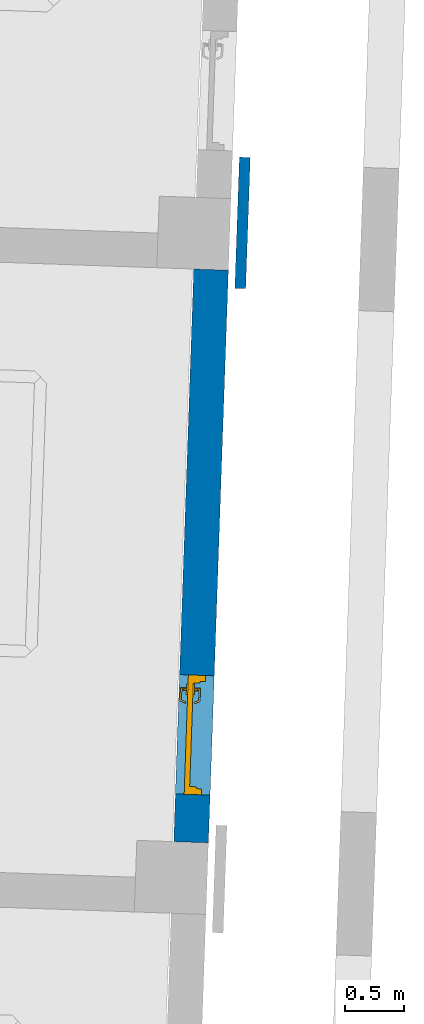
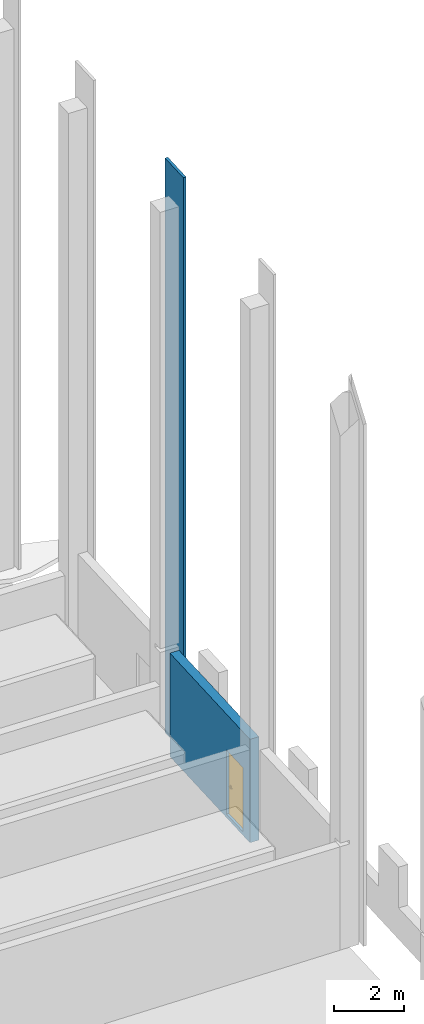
# One storey, part 35 of 44: 2 walls, 1 door, 1 opening.
"""IFC2X3 building model written with IfcOpenShell, lengths in feet."""

from ifc_helpers import new_model, entity, si_unit, converted_unit, derived_unit, direction, frame, frame_2d, origin, place, context, subcontext, project, spatial, rectangle, extrude, faceted_brep, source, transform, mapped, material, material_list, layer, layer_set, layer_usage, type_object, type_shapes, element, fill, save


model = new_model("IFC2X3")

# Units and contexts
model_context = context("Model", 3, precision=0.0001, world=origin(), true_north=direction((0.999390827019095, 0.0348994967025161)))
body_context = subcontext(model_context, "Body", "Model", "MODEL_VIEW")
ifc_project = project(units=[converted_unit("LENGTHUNIT", "FOOT", entity("IfcRatioMeasure", 0.3048), si_unit("LENGTHUNIT", "METRE"), dimensions=[1, 0, 0, 0, 0, 0, 0]), converted_unit("AREAUNIT", "SQUARE FOOT", entity("IfcRatioMeasure", 0.09290304), si_unit("AREAUNIT", "SQUARE_METRE"), dimensions=[2, 0, 0, 0, 0, 0, 0]), converted_unit("VOLUMEUNIT", "CUBIC FOOT", entity("IfcRatioMeasure", 0.028316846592), si_unit("VOLUMEUNIT", "CUBIC_METRE"), dimensions=[3, 0, 0, 0, 0, 0, 0]), converted_unit("PLANEANGLEUNIT", "DEGREE", entity("IfcRatioMeasure", 0.0174532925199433), si_unit("PLANEANGLEUNIT", "RADIAN"), dimensions=[0, 0, 0, 0, 0, 0, 0]), si_unit("MASSUNIT", "GRAM", prefix="KILO"), si_unit("TIMEUNIT", "SECOND"), si_unit("FREQUENCYUNIT", "HERTZ"), si_unit("THERMODYNAMICTEMPERATUREUNIT", "DEGREE_CELSIUS"), derived_unit("THERMALTRANSMITTANCEUNIT", [(si_unit("MASSUNIT", "GRAM", prefix="KILO"), 1), (si_unit("THERMODYNAMICTEMPERATUREUNIT", "KELVIN"), -1), (si_unit("TIMEUNIT", "SECOND"), -3)]), derived_unit("VOLUMETRICFLOWRATEUNIT", [(si_unit("LENGTHUNIT", "METRE"), 3), (si_unit("TIMEUNIT", "SECOND"), -1)]), si_unit("ELECTRICCURRENTUNIT", "AMPERE"), si_unit("ELECTRICVOLTAGEUNIT", "VOLT"), si_unit("POWERUNIT", "WATT"), si_unit("FORCEUNIT", "NEWTON"), si_unit("ILLUMINANCEUNIT", "LUX"), si_unit("LUMINOUSFLUXUNIT", "LUMEN"), si_unit("LUMINOUSINTENSITYUNIT", "CANDELA"), derived_unit("USERDEFINED", [(si_unit("MASSUNIT", "GRAM", prefix="KILO"), -1), (si_unit("LENGTHUNIT", "METRE"), -2), (si_unit("TIMEUNIT", "SECOND"), 3), (si_unit("LUMINOUSFLUXUNIT", "LUMEN"), 1)]), derived_unit("LINEARVELOCITYUNIT", [(si_unit("LENGTHUNIT", "METRE"), 1), (si_unit("TIMEUNIT", "SECOND"), -1)]), si_unit("PRESSUREUNIT", "PASCAL"), derived_unit("USERDEFINED", [(si_unit("LENGTHUNIT", "METRE"), -2), (si_unit("MASSUNIT", "GRAM", prefix="KILO"), 1), (si_unit("TIMEUNIT", "SECOND"), -2)])], contexts=[model_context])

# Site, building, storey
site_placement = place(None, frame((892.518771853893, 322.38689265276, 0.00393700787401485), z_axis=(0.0, 0.0, 1.0), x_axis=(0.0348994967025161, 0.999390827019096, 0.0)))
site = spatial("IfcSite", under=ifc_project, at=site_placement, Name="Default", CompositionType="ELEMENT")
building_placement = place(site_placement, origin())
building = spatial("IfcBuilding", under=site, at=building_placement, CompositionType="ELEMENT")
storey_placement = place(building_placement, frame((0.0, 0.0, 544.75)))
storey = spatial("IfcBuildingStorey", under=building, at=storey_placement, Name="Exist Garage - Ground Level", CompositionType="ELEMENT", Elevation=544.75)

# Wall
ifc_material_1 = material(Name="Masonry - Brick")
ifc_layer_1 = layer(ifc_material_1, 0.302083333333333)
ifc_layer_set_1 = layer_set([ifc_layer_1], Name="Basic Wall:(Existing) Exterior - Brick Veneer 3 5/8\"")
ifc_layer_usage_1 = layer_usage(ifc_layer_set_1, "AXIS2", "POSITIVE", -0.151041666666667)
wall_type_1 = type_object("IfcWallType", Name="Basic Wall:(Existing) Exterior - Brick Veneer 3 5/8\"", PredefinedType="STANDARD", material=ifc_layer_set_1)
wall_1_placement = place(storey_placement, frame((38.4272542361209, 235.41499514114, 0.0)))
element("IfcWallStandardCase", 1, at=wall_1_placement, inside=storey, type_object=wall_type_1, material=ifc_layer_usage_1, Name="Basic Wall:(Existing) Exterior - Brick Veneer 3 5/8\"", ObjectType="Basic Wall:(Existing) Exterior - Brick Veneer 3 5/8\"", context=body_context, shape_type="SweptSolid", body=[
    extrude(rectangle(XDim=3.66666666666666, YDim=0.302083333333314, at=frame_2d((1.83333333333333, 0.0), x_axis=(-1.0, 0.0))), origin(), (0.0, 0.0, 1.0), 65.8125),
])

# Wall, opening, door
ifc_material_2 = material(Name="Masonry - Concrete Masonry Units")
ifc_layer_2 = layer(ifc_material_2, 0.96875)
ifc_layer_set_2 = layer_set([ifc_layer_2], Name="Basic Wall:Interior - (C12) 12\" cmu")
ifc_layer_usage_2 = layer_usage(ifc_layer_set_2, "AXIS2", "POSITIVE", -0.484375)
wall_type_2 = type_object("IfcWallType", Name="Basic Wall:Interior - (C12) 12\" cmu", PredefinedType="STANDARD", material=ifc_layer_set_2)
wall_2_placement = place(storey_placement, frame((22.9272542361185, 236.248328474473, -0.416666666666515)))
wall_2 = element("IfcWallStandardCase", 2, at=wall_2_placement, inside=storey, type_object=wall_type_2, material=ifc_layer_usage_2, Name="Basic Wall:Interior - (C12) 12\" cmu", ObjectType="Basic Wall:Interior - (C12) 12\" cmu", context=body_context, shape_type="SweptSolid", body=[
    extrude(rectangle(XDim=16.0000000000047, YDim=0.96875, at=frame_2d((8.00000000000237, 5.82867087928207e-16), x_axis=(-1.0, 0.0))), origin(), (0.0, 0.0, 1.0), 11.8498357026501),
])
opening_placement = place(wall_2_placement, frame((1.33333333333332, -0.484375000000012, 0.416666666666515)))
opening = element("IfcOpeningElement", 3, at=opening_placement, cuts=wall_2, Name="HM_Frame_Door_-_Interior_Single_3897:3'-0\" x 7'-0\" Metal_5.75\" x 4\":1", ObjectType="Opening", context=body_context, shape_type="SweptSolid", body=[
    extrude(rectangle(XDim=3.33333333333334, YDim=7.33333333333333, at=frame_2d((3.66666666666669, 1.66666666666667), x_axis=(0.0, -1.0))), frame((0.0, 0.0, 0.0), z_axis=(0.0, 1.0, 0.0), x_axis=(0.0, 0.0, 1.0)), (0.0, 0.0, 1.0), 0.96875),
])
ifc_material_3 = material(Name="Door - Hardware")
ifc_material_4 = material(Name="Door - H.M. Panel")
ifc_material_5 = material(Name="Door - H.M. Frame")
ifc_material_list_1 = material_list([ifc_material_3, ifc_material_4, ifc_material_5])
ifc_material_list_2 = material_list([ifc_material_3, ifc_material_4, ifc_material_5])
door_style = type_object("IfcDoorStyle", Name="3'-0\" x 7'-0\" Metal_5.75\" x 4\"", ConstructionType="NOTDEFINED", OperationType="NOTDEFINED", ParameterTakesPrecedence=False, Sizeable=False, material=ifc_material_list_2)
shared_shape = source(origin(), body_context, "Body", "Brep", [
    faceted_brep([(2.6243203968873, 0.425163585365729, 3.36458333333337), (2.63071126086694, 0.41145833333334, 3.36458333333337), (2.63071126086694, 0.41145833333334, 3.30208333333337), (2.6243203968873, 0.425163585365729, 3.30208333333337), (2.57149311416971, 0.53845205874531, 3.31250000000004), (2.57149311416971, 0.53845205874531, 3.3541666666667), (2.53373028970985, 0.520842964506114, 3.31250000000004), (2.58655757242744, 0.407554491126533, 3.30208333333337), (2.60416666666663, 0.369791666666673, 3.30208333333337), (2.60416666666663, 0.369791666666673, 3.36458333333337), (2.58655757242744, 0.407554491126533, 3.36458333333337), (2.53373028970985, 0.520842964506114, 3.3541666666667), (2.60416666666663, 0.41145833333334, 3.30208333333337), (2.60416666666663, 0.41145833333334, 3.36458333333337), (2.9361960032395, 0.369791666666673, 3.29168707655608), (2.94639661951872, 0.369791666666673, 3.29262754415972), (2.95605949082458, 0.369791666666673, 3.29602842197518), (2.96460055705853, 0.369791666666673, 3.3016841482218), (2.97150356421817, 0.369791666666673, 3.30925286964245), (2.97635126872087, 0.369791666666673, 3.31827710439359), (2.97885065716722, 0.369791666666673, 3.32821139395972), (2.97885065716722, 0.369791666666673, 3.33845527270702), (2.97635126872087, 0.369791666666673, 3.34838956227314), (2.97150356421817, 0.369791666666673, 3.35741379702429), (2.96460055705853, 0.369791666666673, 3.36498251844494), (2.95605949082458, 0.369791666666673, 3.37063824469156), (2.94639661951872, 0.369791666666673, 3.37403912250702), (2.9361960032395, 0.369791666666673, 3.37497959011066), (2.92566985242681, 0.41145833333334, 3.29338137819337), (2.9361960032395, 0.41145833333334, 3.29168707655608), (2.9361960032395, 0.41145833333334, 3.37497959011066), (2.92566985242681, 0.41145833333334, 3.37328528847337), (2.91591827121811, 0.41145833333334, 3.36897516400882), (2.90757973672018, 0.41145833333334, 3.36233141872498), (2.90120020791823, 0.41145833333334, 3.35378904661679), (2.89719737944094, 0.41145833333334, 3.34390735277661), (2.8958333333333, 0.41145833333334, 3.33333333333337), (2.89719737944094, 0.41145833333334, 3.32275931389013), (2.90120020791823, 0.41145833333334, 3.31287762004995), (2.90757973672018, 0.41145833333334, 3.30433524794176), (2.91591827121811, 0.41145833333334, 3.29769150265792), (2.94568224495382, 0.41145833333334, 3.29247795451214), (2.95473886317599, 0.41145833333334, 3.2954000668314), (2.96289592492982, 0.41145833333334, 3.30030065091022), (2.96972778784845, 0.41145833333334, 3.30692347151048), (2.9748787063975, 0.41145833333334, 3.31492291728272), (2.97808054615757, 0.41145833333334, 3.32388185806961), (2.97916666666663, 0.411458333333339, 3.33333333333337), (2.97808054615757, 0.41145833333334, 3.34278480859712), (2.9748787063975, 0.41145833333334, 3.35174374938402), (2.96972778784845, 0.41145833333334, 3.35974319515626), (2.96289592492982, 0.41145833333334, 3.36636601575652), (2.95473886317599, 0.41145833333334, 3.37126659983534), (2.94568224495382, 0.41145833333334, 3.3741887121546), (2.97774690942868, 0.536458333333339, 3.34411746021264), (2.97916666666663, 0.536458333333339, 3.33333333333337), (2.97358439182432, 0.536458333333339, 3.3541666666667), (2.9669627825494, 0.536458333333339, 3.36279611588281), (2.9583333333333, 0.536458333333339, 3.36941772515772), (2.94828412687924, 0.536458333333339, 3.37358024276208), (2.93749999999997, 0.536458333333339, 3.37500000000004), (2.92671587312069, 0.536458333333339, 3.37358024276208), (2.91666666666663, 0.536458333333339, 3.36941772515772), (2.90803721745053, 0.536458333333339, 3.36279611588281), (2.90141560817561, 0.536458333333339, 3.3541666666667), (2.89725309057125, 0.536458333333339, 3.34411746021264), (2.8958333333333, 0.536458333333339, 3.33333333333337), (2.89725309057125, 0.536458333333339, 3.3225492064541), (2.90141560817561, 0.536458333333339, 3.31250000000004), (2.90803721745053, 0.536458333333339, 3.30387055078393), (2.91666666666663, 0.536458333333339, 3.29724894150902), (2.92671587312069, 0.536458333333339, 3.29308642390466), (2.93749999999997, 0.536458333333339, 3.2916666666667), (2.94828412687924, 0.536458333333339, 3.29308642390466), (2.9583333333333, 0.536458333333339, 3.29724894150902), (2.9669627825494, 0.536458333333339, 3.30387055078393), (2.97358439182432, 0.536458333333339, 3.31250000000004), (2.97774690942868, 0.536458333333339, 3.3225492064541), (2.8645833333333, 0.536458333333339, 3.4596287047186), (2.83438026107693, 0.536458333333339, 3.43645307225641), (2.89975555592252, 0.536458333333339, 3.47419751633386), (2.93749999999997, 0.536458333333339, 3.4791666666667), (2.97524444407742, 0.536458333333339, 3.47419751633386), (3.01041666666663, 0.536458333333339, 3.4596287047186), (3.040619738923, 0.536458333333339, 3.43645307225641), (3.0637953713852, 0.536458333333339, 3.40625000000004), (3.07836418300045, 0.536458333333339, 3.37107777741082), (3.0833333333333, 0.536458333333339, 3.33333333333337), (3.07836418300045, 0.536458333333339, 3.29558888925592), (3.0637953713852, 0.536458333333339, 3.2604166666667), (3.040619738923, 0.536458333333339, 3.23021359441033), (3.01041666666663, 0.536458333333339, 3.20703796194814), (2.97524444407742, 0.536458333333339, 3.19246915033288), (2.93749999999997, 0.536458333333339, 3.18750000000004), (2.89975555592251, 0.536458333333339, 3.19246915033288), (2.8645833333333, 0.536458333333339, 3.20703796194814), (2.83438026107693, 0.536458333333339, 3.23021359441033), (2.81120462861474, 0.536458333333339, 3.2604166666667), (2.79663581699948, 0.536458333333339, 3.29558888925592), (2.79166666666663, 0.536458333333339, 3.33333333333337), (2.79663581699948, 0.536458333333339, 3.37107777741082), (2.81120462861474, 0.536458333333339, 3.40625000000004), (2.83438026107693, 0.578125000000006, 3.23021359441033), (2.81120462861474, 0.578125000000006, 3.2604166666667), (2.79663581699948, 0.578125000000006, 3.29558888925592), (2.79166666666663, 0.578125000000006, 3.33333333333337), (2.79663581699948, 0.578125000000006, 3.37107777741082), (2.81120462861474, 0.578125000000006, 3.40625000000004), (2.83438026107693, 0.578125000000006, 3.43645307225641), (2.8645833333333, 0.578125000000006, 3.4596287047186), (2.89975555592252, 0.578125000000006, 3.47419751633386), (2.93749999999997, 0.578125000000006, 3.4791666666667), (2.97524444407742, 0.578125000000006, 3.47419751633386), (3.01041666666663, 0.578125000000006, 3.4596287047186), (3.040619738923, 0.578125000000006, 3.43645307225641), (3.0637953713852, 0.578125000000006, 3.40625000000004), (3.07836418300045, 0.578125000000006, 3.37107777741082), (3.0833333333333, 0.578125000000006, 3.33333333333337), (3.07836418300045, 0.578125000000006, 3.29558888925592), (3.0637953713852, 0.578125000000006, 3.2604166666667), (3.040619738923, 0.578125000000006, 3.23021359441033), (3.01041666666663, 0.578125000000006, 3.20703796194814), (2.97524444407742, 0.578125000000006, 3.19246915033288), (2.93749999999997, 0.578125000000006, 3.18750000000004), (2.89975555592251, 0.578125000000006, 3.19246915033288), (2.8645833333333, 0.578125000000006, 3.20703796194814)], [[[0, 1, 2, 3, 4, 5]], [[6, 7, 8, 9, 10, 11]], [[3, 2, 12, 8, 7]], [[4, 3, 7, 6]], [[5, 4, 6, 11]], [[0, 5, 11, 10]], [[1, 0, 10, 9, 13]], [[9, 8, 14, 15, 16, 17, 18, 19, 20, 21, 22, 23, 24, 25, 26, 27]], [[28, 29, 12, 2, 1, 13, 30, 31, 32, 33, 34, 35, 36, 37, 38, 39, 40]], [[14, 8, 12, 29]], [[41, 14, 29]], [[42, 15, 41]], [[17, 43, 44]], [[44, 45, 18]], [[42, 43, 16]], [[46, 19, 45]], [[42, 16, 15]], [[15, 14, 41]], [[19, 18, 45]], [[17, 44, 18]], [[17, 16, 43]], [[20, 19, 46]], [[46, 47, 20]], [[48, 21, 47]], [[49, 22, 48]], [[24, 50, 51]], [[51, 52, 25]], [[49, 50, 23]], [[53, 26, 52]], [[24, 23, 50]], [[23, 22, 49]], [[22, 21, 48]], [[27, 26, 53]], [[25, 52, 26]], [[25, 24, 51]], [[27, 53, 30]], [[47, 21, 20]], [[9, 27, 30, 13]], [[54, 48, 55]], [[56, 49, 54]], [[51, 57, 58]], [[56, 57, 50]], [[52, 58, 59]], [[54, 49, 48]], [[48, 47, 55]], [[52, 51, 58]], [[50, 57, 51]], [[50, 49, 56]], [[53, 52, 59]], [[59, 60, 53]], [[61, 30, 60]], [[62, 31, 61]], [[33, 63, 64]], [[64, 65, 34]], [[62, 63, 32]], [[66, 35, 65]], [[62, 32, 31]], [[31, 30, 61]], [[35, 34, 65]], [[33, 64, 34]], [[33, 32, 63]], [[36, 35, 66]], [[60, 30, 53]], [[67, 37, 66]], [[68, 38, 67]], [[40, 69, 70]], [[68, 69, 39]], [[28, 70, 71]], [[67, 38, 37]], [[37, 36, 66]], [[28, 40, 70]], [[39, 69, 40]], [[39, 38, 68]], [[29, 28, 71]], [[71, 72, 29]], [[73, 41, 72]], [[74, 42, 73]], [[44, 75, 76]], [[76, 77, 45]], [[74, 75, 43]], [[55, 46, 77]], [[74, 43, 42]], [[42, 41, 73]], [[46, 45, 77]], [[44, 76, 45]], [[44, 43, 75]], [[47, 46, 55]], [[72, 41, 29]], [[62, 61, 78]], [[79, 62, 78]], [[62, 79, 63]], [[61, 80, 78]], [[80, 61, 60]], [[80, 60, 81]], [[59, 81, 60]], [[81, 59, 82]], [[59, 58, 82]], [[83, 82, 58]], [[57, 83, 58]], [[83, 57, 84]], [[56, 84, 57]], [[85, 84, 56]], [[54, 85, 56]], [[86, 85, 54]], [[86, 54, 55]], [[86, 55, 87]], [[87, 55, 77]], [[87, 77, 88]], [[88, 77, 76]], [[88, 76, 89]], [[90, 89, 76]], [[90, 76, 75]], [[75, 91, 90]], [[75, 74, 91]], [[92, 91, 74]], [[73, 92, 74]], [[73, 93, 92]], [[93, 73, 72]], [[72, 94, 93]], [[71, 94, 72]], [[94, 71, 95]], [[70, 95, 71]], [[96, 95, 70]], [[96, 70, 69]], [[96, 69, 97]], [[97, 69, 68]], [[97, 68, 98]], [[67, 98, 68]], [[99, 98, 67]], [[67, 66, 99]], [[66, 100, 99]], [[100, 66, 65]], [[100, 65, 101]], [[65, 64, 101]], [[63, 101, 64]], [[79, 101, 63]], [[102, 103, 104, 105, 106, 107, 108, 109, 110, 111, 112, 113, 114, 115, 116, 117, 118, 119, 120, 121, 122, 123, 124, 125]], [[116, 86, 87, 117]], [[115, 85, 86, 116]], [[83, 84, 114, 113]], [[115, 114, 84, 85]], [[82, 83, 113, 112]], [[81, 82, 112, 111]], [[110, 80, 81, 111]], [[109, 78, 80, 110]], [[101, 79, 108, 107]], [[109, 108, 79, 78]], [[100, 101, 107, 106]], [[99, 100, 106, 105]], [[104, 98, 99, 105]], [[103, 97, 98, 104]], [[95, 96, 102, 125]], [[103, 102, 96, 97]], [[94, 95, 125, 124]], [[93, 94, 124, 123]], [[122, 92, 93, 123]], [[121, 91, 92, 122]], [[89, 90, 120, 119]], [[121, 120, 90, 91]], [[88, 89, 119, 118]], [[87, 88, 118, 117]]]),
    faceted_brep([(2.62432039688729, 0.876919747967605, 3.30208333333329), (2.63071126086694, 0.890624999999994, 3.30208333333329), (2.63071126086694, 0.890624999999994, 3.36458333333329), (2.62432039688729, 0.876919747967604, 3.36458333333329), (2.57149311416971, 0.763631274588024, 3.35416666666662), (2.57149311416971, 0.763631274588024, 3.31249999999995), (2.53373028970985, 0.781240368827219, 3.35416666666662), (2.58655757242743, 0.8945288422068, 3.36458333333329), (2.60416666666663, 0.932291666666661, 3.36458333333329), (2.60416666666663, 0.932291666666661, 3.30208333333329), (2.58655757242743, 0.8945288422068, 3.30208333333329), (2.53373028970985, 0.781240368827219, 3.31249999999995), (2.60416666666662, 0.890624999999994, 3.36458333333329), (2.60416666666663, 0.890624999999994, 3.30208333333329), (2.9361960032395, 0.932291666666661, 3.37497959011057), (2.94639661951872, 0.932291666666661, 3.37403912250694), (2.95605949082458, 0.932291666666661, 3.37063824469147), (2.96460055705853, 0.932291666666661, 3.36498251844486), (2.97150356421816, 0.932291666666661, 3.35741379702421), (2.97635126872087, 0.932291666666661, 3.34838956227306), (2.97885065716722, 0.932291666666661, 3.33845527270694), (2.97885065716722, 0.932291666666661, 3.32821139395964), (2.97635126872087, 0.932291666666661, 3.31827710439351), (2.97150356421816, 0.932291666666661, 3.30925286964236), (2.96460055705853, 0.932291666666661, 3.30168414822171), (2.95605949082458, 0.932291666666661, 3.2960284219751), (2.94639661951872, 0.932291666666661, 3.29262754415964), (2.9361960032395, 0.932291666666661, 3.291687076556), (2.92566985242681, 0.890624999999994, 3.37328528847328), (2.9361960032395, 0.890624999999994, 3.37497959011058), (2.9361960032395, 0.890624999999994, 3.291687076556), (2.92566985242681, 0.890624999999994, 3.29338137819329), (2.91591827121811, 0.890624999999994, 3.29769150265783), (2.90757973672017, 0.890624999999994, 3.30433524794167), (2.90120020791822, 0.890624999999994, 3.31287762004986), (2.89719737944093, 0.890624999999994, 3.32275931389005), (2.8958333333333, 0.890624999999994, 3.33333333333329), (2.89719737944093, 0.890624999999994, 3.34390735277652), (2.90120020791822, 0.890624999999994, 3.35378904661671), (2.90757973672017, 0.890624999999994, 3.3623314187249), (2.91591827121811, 0.890624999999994, 3.36897516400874), (2.94568224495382, 0.890624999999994, 3.37418871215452), (2.95473886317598, 0.890624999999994, 3.37126659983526), (2.96289592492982, 0.890624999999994, 3.36636601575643), (2.96972778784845, 0.890624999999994, 3.35974319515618), (2.9748787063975, 0.890624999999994, 3.35174374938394), (2.97808054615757, 0.890624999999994, 3.34278480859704), (2.97916666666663, 0.890624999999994, 3.33333333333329), (2.97808054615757, 0.890624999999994, 3.32388185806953), (2.9748787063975, 0.890624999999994, 3.31492291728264), (2.96972778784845, 0.890624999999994, 3.30692347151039), (2.96289592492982, 0.890624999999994, 3.30030065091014), (2.95473886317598, 0.890624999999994, 3.29540006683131), (2.94568224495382, 0.890624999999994, 3.29247795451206), (2.97774690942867, 0.765624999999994, 3.32254920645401), (2.97916666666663, 0.765624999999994, 3.33333333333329), (2.97358439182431, 0.765624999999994, 3.31249999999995), (2.9669627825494, 0.765624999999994, 3.30387055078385), (2.9583333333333, 0.765624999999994, 3.29724894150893), (2.94828412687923, 0.765624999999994, 3.29308642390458), (2.93749999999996, 0.765624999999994, 3.29166666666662), (2.92671587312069, 0.765624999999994, 3.29308642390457), (2.91666666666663, 0.765624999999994, 3.29724894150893), (2.90803721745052, 0.765624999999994, 3.30387055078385), (2.90141560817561, 0.765624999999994, 3.31249999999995), (2.89725309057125, 0.765624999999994, 3.32254920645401), (2.8958333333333, 0.765624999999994, 3.33333333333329), (2.89725309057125, 0.765624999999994, 3.34411746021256), (2.90141560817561, 0.765624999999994, 3.35416666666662), (2.90803721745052, 0.765624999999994, 3.36279611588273), (2.91666666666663, 0.765624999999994, 3.36941772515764), (2.92671587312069, 0.765624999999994, 3.373580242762), (2.93749999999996, 0.765624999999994, 3.37499999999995), (2.94828412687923, 0.765624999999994, 3.373580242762), (2.9583333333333, 0.765624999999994, 3.36941772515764), (2.9669627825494, 0.765624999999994, 3.36279611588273), (2.97358439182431, 0.765624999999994, 3.35416666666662), (2.97774690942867, 0.765624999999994, 3.34411746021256), (2.8645833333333, 0.765624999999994, 3.20703796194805), (2.83438026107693, 0.765624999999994, 3.23021359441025), (2.89975555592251, 0.765624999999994, 3.1924691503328), (2.93749999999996, 0.765624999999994, 3.18749999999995), (2.97524444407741, 0.765624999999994, 3.1924691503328), (3.01041666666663, 0.765624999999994, 3.20703796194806), (3.040619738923, 0.765624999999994, 3.23021359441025), (3.06379537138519, 0.765624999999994, 3.26041666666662), (3.07836418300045, 0.765624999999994, 3.29558888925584), (3.0833333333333, 0.765624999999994, 3.33333333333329), (3.07836418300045, 0.765624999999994, 3.37107777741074), (3.06379537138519, 0.765624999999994, 3.40624999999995), (3.040619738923, 0.765624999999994, 3.43645307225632), (3.01041666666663, 0.765624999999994, 3.45962870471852), (2.97524444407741, 0.765624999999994, 3.47419751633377), (2.93749999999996, 0.765624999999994, 3.47916666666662), (2.89975555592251, 0.765624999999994, 3.47419751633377), (2.8645833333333, 0.765624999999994, 3.45962870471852), (2.83438026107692, 0.765624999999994, 3.43645307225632), (2.81120462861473, 0.765624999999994, 3.40624999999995), (2.79663581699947, 0.765624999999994, 3.37107777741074), (2.79166666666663, 0.765624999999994, 3.33333333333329), (2.79663581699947, 0.765624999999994, 3.29558888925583), (2.81120462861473, 0.765624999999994, 3.26041666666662), (2.83438026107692, 0.723958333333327, 3.43645307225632), (2.81120462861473, 0.723958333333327, 3.40624999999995), (2.79663581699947, 0.723958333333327, 3.37107777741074), (2.79166666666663, 0.723958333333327, 3.33333333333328), (2.79663581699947, 0.723958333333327, 3.29558888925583), (2.81120462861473, 0.723958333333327, 3.26041666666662), (2.83438026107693, 0.723958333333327, 3.23021359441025), (2.8645833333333, 0.723958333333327, 3.20703796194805), (2.89975555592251, 0.723958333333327, 3.1924691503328), (2.93749999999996, 0.723958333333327, 3.18749999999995), (2.97524444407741, 0.723958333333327, 3.1924691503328), (3.01041666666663, 0.723958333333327, 3.20703796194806), (3.040619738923, 0.723958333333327, 3.23021359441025), (3.06379537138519, 0.723958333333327, 3.26041666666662), (3.07836418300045, 0.723958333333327, 3.29558888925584), (3.0833333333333, 0.723958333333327, 3.33333333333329), (3.07836418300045, 0.723958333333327, 3.37107777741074), (3.06379537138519, 0.723958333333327, 3.40624999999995), (3.040619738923, 0.723958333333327, 3.43645307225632), (3.01041666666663, 0.723958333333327, 3.45962870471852), (2.97524444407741, 0.723958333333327, 3.47419751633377), (2.93749999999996, 0.723958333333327, 3.47916666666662), (2.89975555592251, 0.723958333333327, 3.47419751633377), (2.8645833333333, 0.723958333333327, 3.45962870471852)], [[[0, 1, 2, 3, 4, 5]], [[6, 7, 8, 9, 10, 11]], [[3, 2, 12, 8, 7]], [[4, 3, 7, 6]], [[5, 4, 6, 11]], [[0, 5, 11, 10]], [[1, 0, 10, 9, 13]], [[9, 8, 14, 15, 16, 17, 18, 19, 20, 21, 22, 23, 24, 25, 26, 27]], [[28, 29, 12, 2, 1, 13, 30, 31, 32, 33, 34, 35, 36, 37, 38, 39, 40]], [[14, 8, 12, 29]], [[41, 14, 29]], [[42, 15, 41]], [[17, 43, 44]], [[44, 45, 18]], [[42, 43, 16]], [[46, 19, 45]], [[42, 16, 15]], [[15, 14, 41]], [[19, 18, 45]], [[17, 44, 18]], [[17, 16, 43]], [[20, 19, 46]], [[46, 47, 20]], [[48, 21, 47]], [[49, 22, 48]], [[24, 50, 51]], [[51, 52, 25]], [[49, 50, 23]], [[53, 26, 52]], [[24, 23, 50]], [[23, 22, 49]], [[22, 21, 48]], [[27, 26, 53]], [[25, 52, 26]], [[25, 24, 51]], [[27, 53, 30]], [[47, 21, 20]], [[9, 27, 30, 13]], [[54, 48, 55]], [[56, 49, 54]], [[51, 57, 58]], [[56, 57, 50]], [[52, 58, 59]], [[54, 49, 48]], [[48, 47, 55]], [[52, 51, 58]], [[50, 57, 51]], [[50, 49, 56]], [[53, 52, 59]], [[59, 60, 53]], [[61, 30, 60]], [[62, 31, 61]], [[33, 63, 64]], [[64, 65, 34]], [[62, 63, 32]], [[66, 35, 65]], [[62, 32, 31]], [[31, 30, 61]], [[35, 34, 65]], [[33, 64, 34]], [[33, 32, 63]], [[36, 35, 66]], [[60, 30, 53]], [[67, 37, 66]], [[68, 38, 67]], [[40, 69, 70]], [[68, 69, 39]], [[28, 70, 71]], [[67, 38, 37]], [[37, 36, 66]], [[28, 40, 70]], [[39, 69, 40]], [[39, 38, 68]], [[29, 28, 71]], [[71, 72, 29]], [[73, 41, 72]], [[74, 42, 73]], [[44, 75, 76]], [[76, 77, 45]], [[74, 75, 43]], [[55, 46, 77]], [[74, 43, 42]], [[42, 41, 73]], [[46, 45, 77]], [[44, 76, 45]], [[44, 43, 75]], [[47, 46, 55]], [[72, 41, 29]], [[62, 61, 78]], [[79, 62, 78]], [[62, 79, 63]], [[61, 80, 78]], [[80, 61, 60]], [[80, 60, 81]], [[59, 81, 60]], [[81, 59, 82]], [[59, 58, 82]], [[83, 82, 58]], [[57, 83, 58]], [[83, 57, 84]], [[56, 84, 57]], [[85, 84, 56]], [[54, 85, 56]], [[86, 85, 54]], [[86, 54, 55]], [[86, 55, 87]], [[87, 55, 77]], [[87, 77, 88]], [[88, 77, 76]], [[88, 76, 89]], [[90, 89, 76]], [[90, 76, 75]], [[75, 91, 90]], [[75, 74, 91]], [[92, 91, 74]], [[73, 92, 74]], [[73, 93, 92]], [[93, 73, 72]], [[72, 94, 93]], [[71, 94, 72]], [[94, 71, 95]], [[70, 95, 71]], [[96, 95, 70]], [[96, 70, 69]], [[96, 69, 97]], [[97, 69, 68]], [[97, 68, 98]], [[67, 98, 68]], [[99, 98, 67]], [[67, 66, 99]], [[66, 100, 99]], [[100, 66, 65]], [[100, 65, 101]], [[65, 64, 101]], [[63, 101, 64]], [[79, 101, 63]], [[102, 103, 104, 105, 106, 107, 108, 109, 110, 111, 112, 113, 114, 115, 116, 117, 118, 119, 120, 121, 122, 123, 124, 125]], [[116, 86, 87, 117]], [[115, 85, 86, 116]], [[83, 84, 114, 113]], [[115, 114, 84, 85]], [[82, 83, 113, 112]], [[81, 82, 112, 111]], [[110, 80, 81, 111]], [[109, 78, 80, 110]], [[101, 79, 108, 107]], [[109, 108, 79, 78]], [[100, 101, 107, 106]], [[99, 100, 106, 105]], [[104, 98, 99, 105]], [[103, 97, 98, 104]], [[95, 96, 102, 125]], [[103, 102, 96, 97]], [[94, 95, 125, 124]], [[93, 94, 124, 123]], [[122, 92, 93, 123]], [[121, 91, 92, 122]], [[89, 90, 120, 119]], [[121, 120, 90, 91]], [[88, 89, 119, 118]], [[87, 88, 118, 117]]]),
    faceted_brep([(0.166666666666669, 0.723958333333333, 7.0), (3.16666666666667, 0.723958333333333, 7.0), (3.16666666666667, 0.723958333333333, 0.0), (0.166666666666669, 0.723958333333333, 0.0), (0.166666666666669, 0.578125, 7.0), (0.166666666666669, 0.578125, 0.0), (3.16666666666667, 0.578125, 0.0), (3.16666666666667, 0.578125, 7.0)], [[[0, 1, 2, 3]], [[4, 5, 6, 7]], [[1, 0, 4, 7]], [[2, 1, 7, 6]], [[3, 2, 6, 5]], [[0, 3, 5, 4]]]),
    faceted_brep([(0.166666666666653, 0.723958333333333, 0.0), (0.166666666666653, 0.578125, 0.0), (0.218749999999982, 0.578125, 0.0), (0.218749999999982, 0.390625, 0.0), (0.166666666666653, 0.390625, 0.0), (0.166666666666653, 0.244791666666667, 0.0), (0.0, 0.244791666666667, 0.0), (0.0, 0.723958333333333, 0.0), (0.166666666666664, 0.723958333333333, 7.0), (0.166666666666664, 0.578125, 7.0), (3.16666666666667, 0.578125, 7.0), (3.16666666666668, 0.578125, 0.0), (3.11458333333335, 0.578125, 0.0), (3.11458333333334, 0.578125, 6.94791666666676), (0.218749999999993, 0.578125, 6.94791666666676), (0.218749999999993, 0.390625, 6.94791666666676), (3.11458333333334, 0.390625, 6.94791666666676), (3.11458333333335, 0.390625, 0.0), (3.16666666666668, 0.390625, 0.0), (3.16666666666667, 0.390625, 7.0), (0.166666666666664, 0.390625, 7.0), (0.166666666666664, 0.244791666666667, 7.0), (3.16666666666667, 0.244791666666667, 7.0), (3.16666666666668, 0.244791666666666, 0.0), (3.33333333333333, 0.244791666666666, 0.0), (3.33333333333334, 0.244791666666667, 7.33333333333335), (0.0, 0.244791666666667, 7.33333333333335), (0.0, 0.723958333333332, 7.33333333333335), (3.33333333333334, 0.723958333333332, 7.33333333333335), (3.33333333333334, 0.723958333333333, 0.0), (3.16666666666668, 0.723958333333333, 0.0), (3.16666666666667, 0.723958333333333, 7.0)], [[[0, 1, 2, 3, 4, 5, 6, 7]], [[1, 0, 8, 9]], [[2, 1, 9, 10, 11, 12, 13, 14]], [[3, 2, 14, 15]], [[4, 3, 15, 16, 17, 18, 19, 20]], [[5, 4, 20, 21]], [[6, 5, 21, 22, 23, 24, 25, 26]], [[7, 6, 26, 27]], [[0, 7, 27, 28, 29, 30, 31, 8]], [[30, 11, 10, 31]], [[30, 29, 24, 23, 18, 17, 12, 11]], [[12, 17, 16, 13]], [[19, 18, 23, 22]], [[29, 28, 25, 24]], [[25, 28, 27, 26]], [[21, 20, 19, 22]], [[15, 14, 13, 16]], [[10, 9, 8, 31]]]),
])
type_shapes(door_style, [shared_shape])
door_placement = place(opening_placement, origin())
door = element("IfcDoor", 4, at=door_placement, inside=storey, type_object=door_style, material=ifc_material_list_1, Name="HM_Frame_Door_-_Interior_Single_3897:3'-0\" x 7'-0\" Metal_5.75\" x 4\"", ObjectType="3'-0\" x 7'-0\" Metal_5.75\" x 4\"", OverallHeight=7.33333333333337, OverallWidth=3.33333333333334, context=body_context, shape_type="MappedRepresentation", body=[
    mapped(shared_shape, transform((0.0, 0.0, 0.0), scale=1.0)),
])
fill(opening, door)

save(model, "model.ifc")
